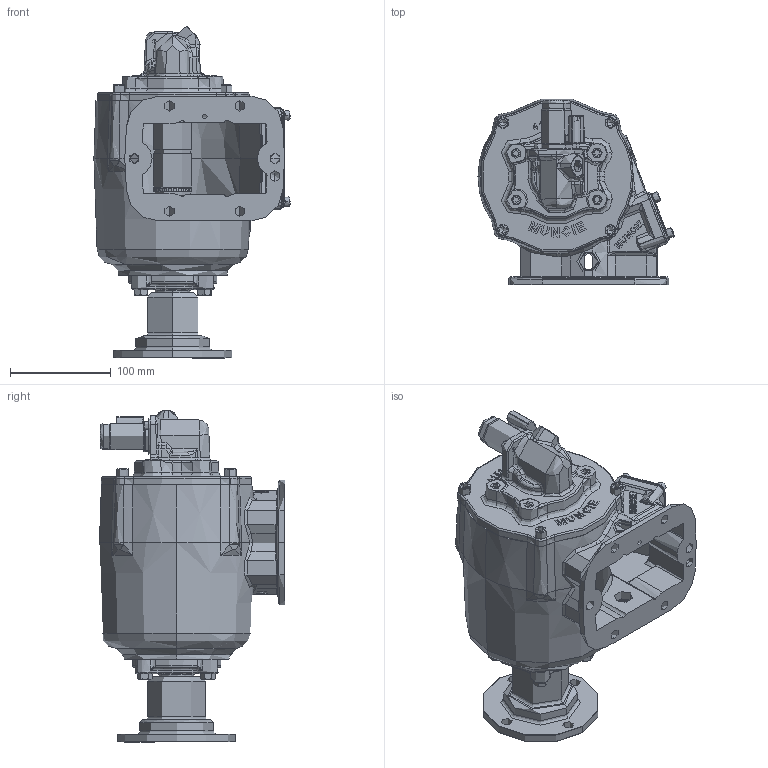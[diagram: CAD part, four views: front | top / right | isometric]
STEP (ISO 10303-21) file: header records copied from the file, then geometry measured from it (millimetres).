
FILE_DESCRIPTION (( 'STEP AP203' ), '1' );
FILE_NAME ('CS6S-XXXXX-S1CX.STEP', '2023-05-25T14:08:26', ( '' ), ( '' ), 'SwSTEP 2.0', 'SolidWorks 2021', '' );
FILE_SCHEMA (( 'CONFIG_CONTROL_DESIGN' ));
Length unit declared in the file: inch
Products named in the file (16): CS6S-XXXXX-S1CX; 19T40859; 19T35237; 01t37073a; 16T41119; 19T41118; 15T41597; 14T37357; 19T41756; 15TA5220_Config1; 25T21684-1; 15T41683; 21T20092; 19T38266; 06T37372_06T37372; 35T40860a
Assembly tree (29 placements, depth 3):
  CS6S-XXXXX-S1CX
    01t37073a
    16T41119
    19T41118  x4
    19T35237  x4
    15T41597
    35T40860a
    25T21684-1  x5
    19T40859  x2
    06T37372_06T37372
    21T20092
    14T37357
    19T38266
    15TA5220_Config1
      15T41683
    19T41756  x4
Bounding box: 194.82 x 183.98 x 329.74 mm (x, y, z)
Topology: 27 solids, 31 shells, 3064 faces, 7803 edges, 4857 vertices
Faces by surface type: bspline 865, plane 848, cylinder 721, cone 402, torus 224, sphere 4
Entity records: 212573 total; most frequent: CARTESIAN_POINT 150745, ORIENTED_EDGE 14082, DIRECTION 9910, EDGE_CURVE 7043, VERTEX_POINT 4439, AXIS2_PLACEMENT_3D 3856, EDGE_LOOP 2974, B_SPLINE_CURVE_WITH_KNOTS 2835
